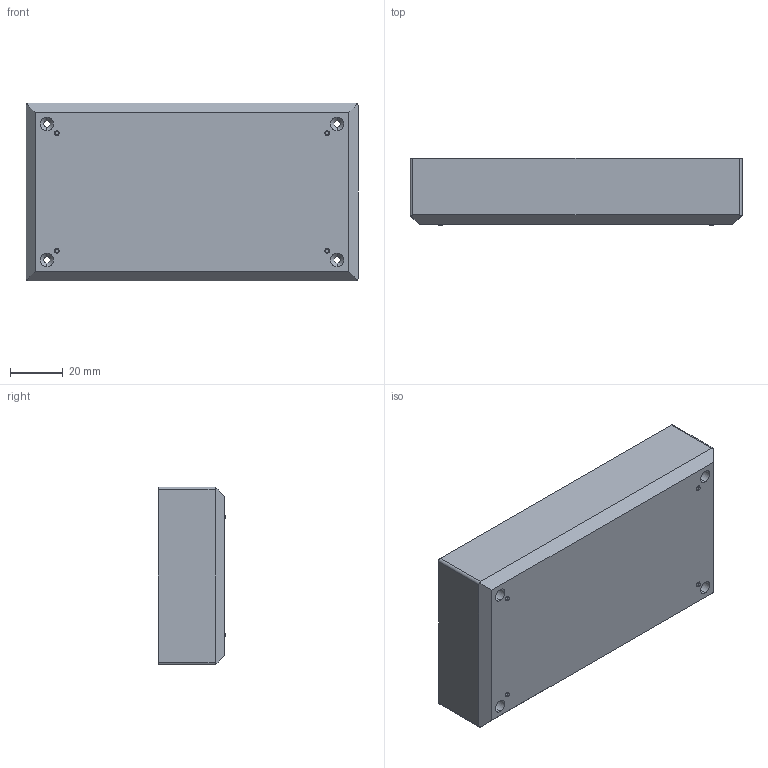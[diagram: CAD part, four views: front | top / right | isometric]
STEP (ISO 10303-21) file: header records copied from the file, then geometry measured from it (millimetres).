
FILE_DESCRIPTION (( 'STEP AP214' ), '1' );
FILE_NAME ('Cuerpo PP48.STEP', '2019-10-10T17:16:07', ( 'aaa' ), ( '' ), 'SwSTEP 2.0', 'SolidWorks 2014', '' );
FILE_SCHEMA (( 'AUTOMOTIVE_DESIGN' ));
Length unit declared in the file: millimetre
Products named in the file (1): Cuerpo PP48
Bounding box: 125.5 x 25.53 x 67.25 mm (x, y, z)
Volume: 56654.7 mm3; surface area: 39128.6 mm2
Topology: 1 solids, 1 shells, 172 faces, 433 edges, 282 vertices
Faces by surface type: plane 87, cylinder 69, cone 16
Entity records: 5221 total; most frequent: CARTESIAN_POINT 960, DIRECTION 909, ORIENTED_EDGE 866, EDGE_CURVE 433, AXIS2_PLACEMENT_3D 327, VERTEX_POINT 282, VECTOR 255, LINE 255
